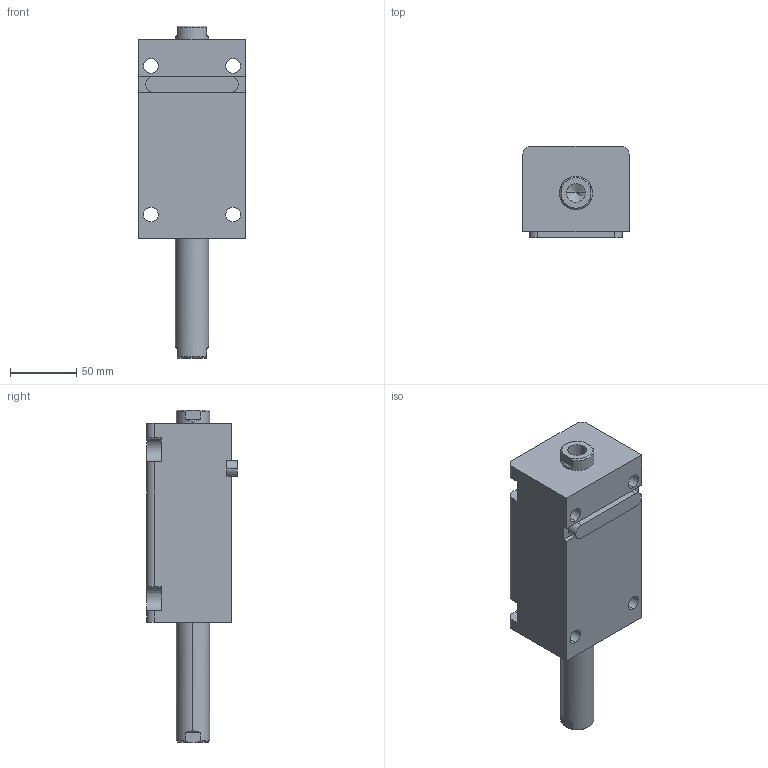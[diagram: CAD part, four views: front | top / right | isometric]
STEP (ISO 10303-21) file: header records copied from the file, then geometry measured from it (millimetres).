
FILE_DESCRIPTION (( 'STEP AP203' ), '1' );
FILE_NAME ('HTB-LW40-80N.STEP', '2019-10-09T07:58:25', ( '微软用户' ), ( '微软中国' ), 'SwSTEP 2.0', 'SolidWorks 2012', '' );
FILE_SCHEMA (( 'CONFIG_CONTROL_DESIGN' ));
Length unit declared in the file: millimetre
Products named in the file (4): HTB-LW40-80N; HTB-LA40-瑩; HTB-LW40-80N活塞杆; HTB-LW40-80掛极
Assembly tree (3 placements, depth 2):
  HTB-LW40-80N
    HTB-LW40-80掛极
    HTB-LW40-80N活塞杆
    HTB-LA40-瑩
Bounding box: 80 x 68.5 x 250 mm (x, y, z)
Volume: 714477 mm3; surface area: 106245.5 mm2
Topology: 3 solids, 3 shells, 105 faces, 261 edges, 168 vertices
Faces by surface type: plane 44, cylinder 41, cone 12, torus 8
Entity records: 3567 total; most frequent: CARTESIAN_POINT 588, DIRECTION 573, ORIENTED_EDGE 514, EDGE_CURVE 257, AXIS2_PLACEMENT_3D 221, VERTEX_POINT 168, LINE 131, VECTOR 131
